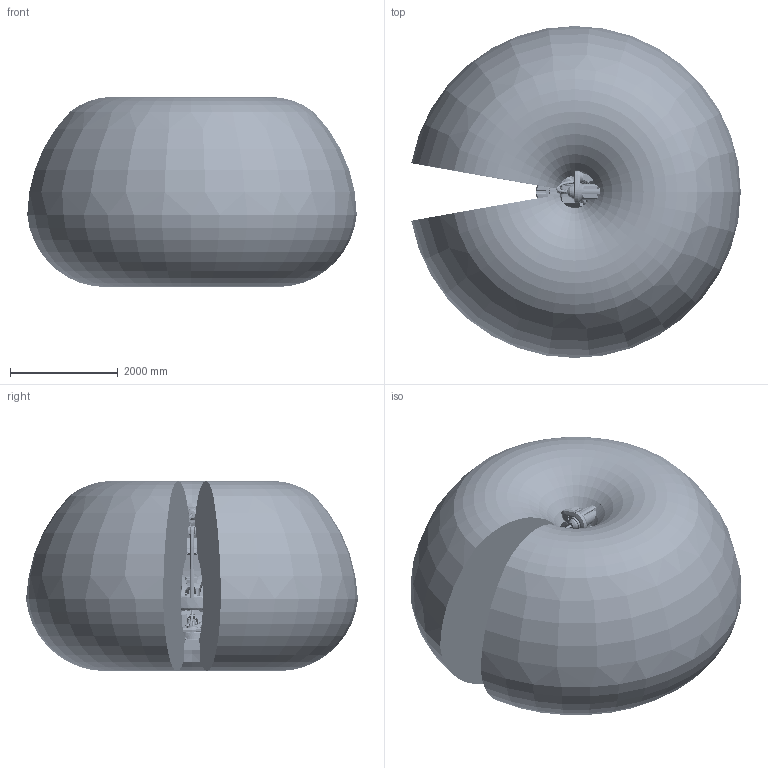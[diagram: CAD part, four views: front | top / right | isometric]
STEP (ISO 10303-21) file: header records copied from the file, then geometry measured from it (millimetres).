
FILE_DESCRIPTION (( 'STEP AP214' ), '1' );
FILE_NAME ('IRB7710-LID_MH_390kg-310_OC_01_ASM_CAD.step', '2026-01-28T09:15:38', ( '' ), ( '' ), 'SwSTEP 2.0', 'SolidWorks 2024', '' );
FILE_SCHEMA (( 'AUTOMOTIVE_DESIGN' ));
Length unit declared in the file: millimetre
Products named in the file (22): IRB77X0_All_OC_00_LINK02m_CABLE; IRB7710-LID_All-310_OC_01_LINK04_CABLE; IRB77X0_All_OC_00_LINK01m_CABLE; IRB77X0_All_OC_00_LINK02_CAD; IRB77X0_All_OC_00_LINK01_CABLE; IRB7710_All-310_OC_00_LINK04_CAD; IRB7710_All_OC_00_BASE_CAD; IRB77X0_All_OC_00_CYL_CAD; IRB7710_All-310_OC_00_LINK05_CABLE; IRB77X0_All_OC_00_LINK03b_CABLE; IRB7710_All_OC_00_LINKARM_CAD; IRB7710-LID_MH_390kg-310_OC_01_ASM_CAD; IRB7710_All-310_OC_00_LINK05_CAD; IRB77X0-LID-MH_All_OC_01_LINK03a_CABLE; IRB77X0_All_OC_00_LINKBAR_CAD; IRB7710_All-310_OC_00_Working-space; IRB77X0_All_OC_00_LINK01_CAD; IRB7710_All-310_OC_00_LINK06_CABLE; IRB77X0_All_OC_00_ROD_CAD; IRB7710_All_OC_00_LINK03m_CABLE; IRB77X0_All_OC_00_LINK02_CABLE; IRB7710_All_OC_00_LINK03_CAD
Assembly tree (21 placements, depth 2):
  IRB7710-LID_MH_390kg-310_OC_01_ASM_CAD
    IRB7710_All_OC_00_BASE_CAD
    IRB77X0_All_OC_00_CYL_CAD
    IRB77X0_All_OC_00_LINK01_CAD
    IRB77X0_All_OC_00_LINK02_CAD
    IRB77X0_All_OC_00_LINKBAR_CAD
    IRB77X0_All_OC_00_ROD_CAD
    IRB7710_All-310_OC_00_LINK04_CAD
    IRB7710_All_OC_00_LINK03_CAD
    IRB7710_All_OC_00_LINKARM_CAD
    IRB7710_All-310_OC_00_LINK05_CAD
    IRB77X0_All_OC_00_LINK01m_CABLE
    IRB77X0_All_OC_00_LINK02m_CABLE
    IRB7710_All_OC_00_LINK03m_CABLE
    IRB77X0_All_OC_00_LINK01_CABLE
    IRB77X0_All_OC_00_LINK02_CABLE
    IRB77X0_All_OC_00_LINK03b_CABLE
    IRB7710_All-310_OC_00_LINK05_CABLE
    IRB7710_All-310_OC_00_LINK06_CABLE
    IRB7710-LID_All-310_OC_01_LINK04_CABLE
    IRB77X0-LID-MH_All_OC_01_LINK03a_CABLE
    IRB7710_All-310_OC_00_Working-space
Bounding box: 6103.23 x 6149.95 x 3522.62 mm (x, y, z)
Volume: 71522213809 mm3; surface area: 140371998 mm2
Topology: 23 solids, 27 shells, 8693 faces, 22036 edges, 14279 vertices
Faces by surface type: plane 4411, cylinder 1802, cone 1154, bspline 985, torus 260, sphere 81
Full cylindrical faces by diameter (mm): 4.8 x8, 5 x15, 5.2 x4, 5.45 x1, 5.5 x4, 6 x16, 6.6 x4, 6.8 x32, 7 x4, 7.5 x8, 8 x8, 8.3 x2, 8.5 x15, 9.5 x4, 10 x12, 10.2 x24, 10.22 x2, 10.5 x3, 11 x6, 11.05 x2, 11.8 x2, 12 x30, 13 x4, 13.27 x48, 14 x28, 16 x5, 16.27 x18, 17 x8, 17.5 x10, 17.7 x3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
Entity records: 594035 total; most frequent: CARTESIAN_POINT 307967, ORIENTED_EDGE 40004, DIRECTION 35753, EDGE_CURVE 20002, VERTEX_POINT 13592, AXIS2_PLACEMENT_3D 13446, EDGE_LOOP 11106, FACE_OUTER_BOUND 9582
